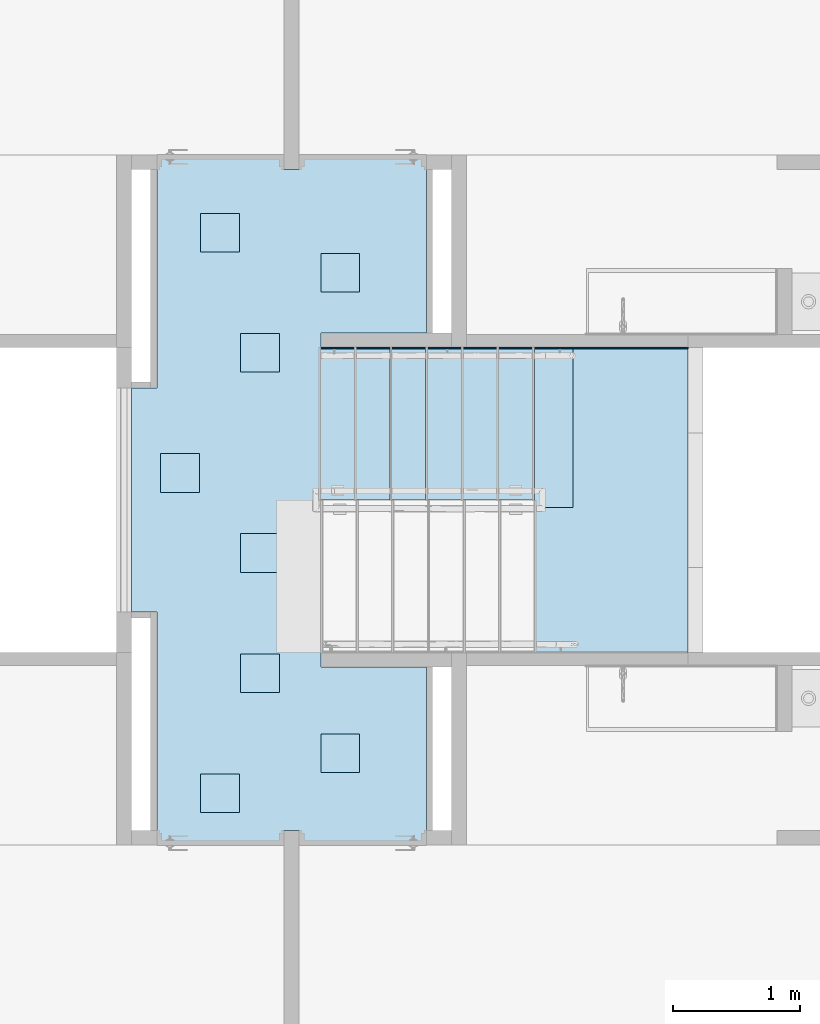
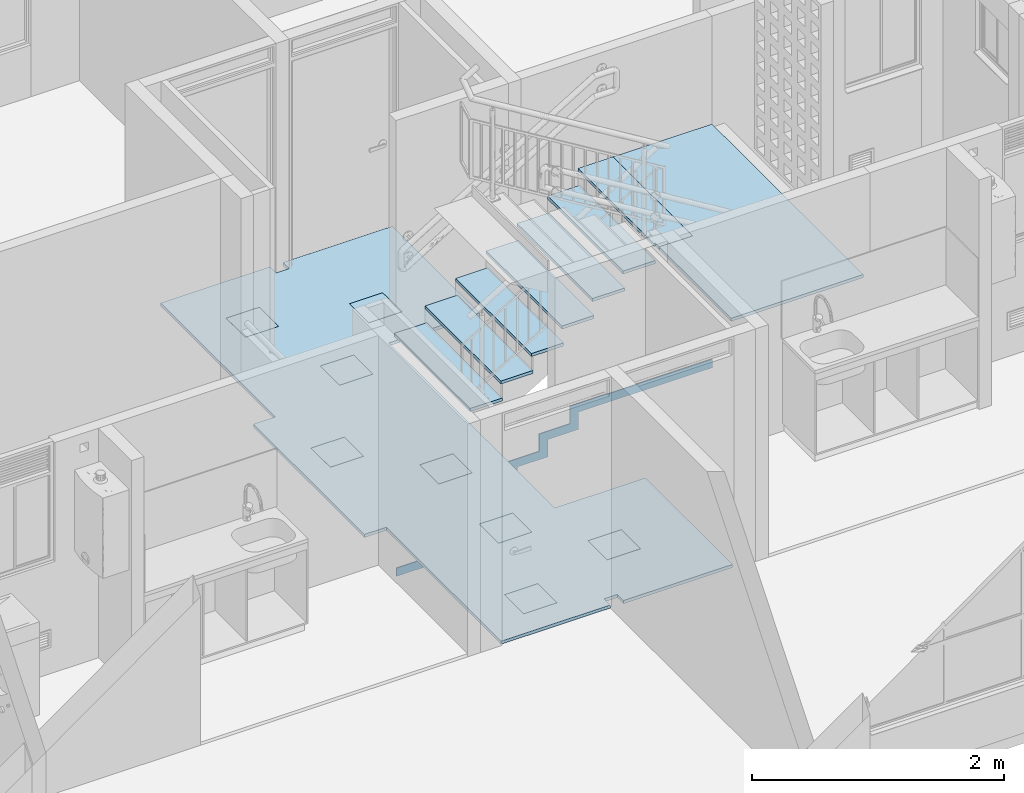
# One storey, part 2 of 48: 11 slabs.
"""IFC4 building model written with IfcOpenShell, lengths in metres."""

import ifcopenshell
import ifcopenshell.guid

model = None  # the IFC model being written
_history = None  # IfcOwnerHistory: only IFC2X3 demands one
_inside = {}  # id of a spatial element -> (the spatial element, [elements in it])
_under = {}  # id of a project, library or spatial element -> (it, [spatial elements below it])
_declared = {}  # id of a project -> (the project, [libraries it declares])
_typed = {}  # id of a type object -> (the type object, [elements of that type])
_made_of = {}  # id of a material, layer set ... -> (it, [elements and type objects made of it])


def new_model(schema):
    """Start an empty IFC model of exactly this schema.

    Asked for "IFC4X3", IfcOpenShell would pick the latest addendum, in which some entities
    have other attributes; the version numbers below select the first issue.
    IFC2X3 requires an IfcOwnerHistory on every rooted entity: one is made here for all.
    """
    global model, _history
    if schema == "IFC4X3":
        model = ifcopenshell.file(schema_version=(4, 3, 0, 0))
    else:
        model = ifcopenshell.file(schema=schema)
    _inside.clear()
    _under.clear()
    _declared.clear()
    _typed.clear()
    _made_of.clear()
    _history = None
    if model.schema == "IFC2X3":
        org = make("IfcOrganization", Name="unknown")
        user = make(
            "IfcPersonAndOrganization",
            ThePerson=make("IfcPerson", FamilyName="unknown"),
            TheOrganization=org,
        )
        app = make(
            "IfcApplication",
            ApplicationDeveloper=org,
            Version="unknown",
            ApplicationFullName="unknown",
            ApplicationIdentifier="unknown",
        )
        _history = make(
            "IfcOwnerHistory",
            OwningUser=user,
            OwningApplication=app,
            ChangeAction="ADDED",
            CreationDate=0,
        )
    return model


def make(cls, **values):
    """One entity of the class cls with the attributes given. An attribute that is None is left unset."""
    return model.create_entity(
        cls, **{name: value for name, value in values.items() if value is not None}
    )


def entity(cls, *values):
    """Any entity or typed value of the class cls, its attributes in the order of the schema. None: left unset."""
    e = model.create_entity(cls)
    for i, value in enumerate(values):
        if value is not None:
            e[i] = value
    return e


def rooted(cls, **values):
    """An entity with a GlobalId (a new one), such as an element, a storey or a relation."""
    return make(cls, GlobalId=ifcopenshell.guid.new(), OwnerHistory=_history, **values)


def si_unit(unit_type, name, prefix=None):
    """IfcSIUnit, for example si_unit("LENGTHUNIT", "METRE", prefix="MILLI")."""
    return make("IfcSIUnit", UnitType=unit_type, Prefix=prefix, Name=name)


def converted_unit(unit_type, name, factor, base, dimensions=None, offset=None):
    """IfcConversionBasedUnit, such as the inch: factor (a typed value) times the base unit."""
    return make(
        "IfcConversionBasedUnit"
        if offset is None
        else "IfcConversionBasedUnitWithOffset",
        ConversionOffset=offset,
        Dimensions=None
        if dimensions is None
        else entity("IfcDimensionalExponents", *dimensions),
        UnitType=unit_type,
        Name=name,
        ConversionFactor=make(
            "IfcMeasureWithUnit", ValueComponent=factor, UnitComponent=base
        ),
    )


def derived_unit(unit_type, elements):
    """IfcDerivedUnit: a product of units, each with its exponent."""
    return make(
        "IfcDerivedUnit",
        Elements=[
            make("IfcDerivedUnitElement", Unit=unit, Exponent=power)
            for unit, power in elements
        ],
        UnitType=unit_type,
    )


def assignment(units):
    """IfcUnitAssignment: the units of a project."""
    return None if units is None else make("IfcUnitAssignment", Units=units)


def point(xyz):
    """IfcCartesianPoint."""
    return None if xyz is None else make("IfcCartesianPoint", Coordinates=xyz)


def direction(xyz):
    """IfcDirection."""
    return None if xyz is None else make("IfcDirection", DirectionRatios=xyz)


def frame(location, z_axis=None, x_axis=None):
    """IfcAxis2Placement3D, a coordinate frame: its origin and axes. An axis left out is left unset."""
    return make(
        "IfcAxis2Placement3D",
        Location=point(location),
        Axis=direction(z_axis),
        RefDirection=direction(x_axis),
    )


def origin():
    """The frame at (0, 0, 0) with its axes left unset."""
    return frame((0.0, 0.0, 0.0))


def place(relative_to, where):
    """IfcLocalPlacement: puts the frame where relative to a parent placement (None: the world)."""
    return make(
        "IfcLocalPlacement", PlacementRelTo=relative_to, RelativePlacement=where
    )


def context(
    kind, dimensions, precision=None, world=None, true_north=None, identifier=None
):
    """IfcGeometricRepresentationContext, for example the 3D "Model" context."""
    return make(
        "IfcGeometricRepresentationContext",
        ContextIdentifier=identifier,
        ContextType=kind,
        CoordinateSpaceDimension=dimensions,
        Precision=precision,
        WorldCoordinateSystem=world,
        TrueNorth=true_north,
    )


def subcontext(parent, identifier, kind, view, scale=None):
    """IfcGeometricRepresentationSubContext, for example "Body" below "Model"."""
    return make(
        "IfcGeometricRepresentationSubContext",
        ContextIdentifier=identifier,
        ContextType=kind,
        ParentContext=parent,
        TargetScale=scale,
        TargetView=view,
    )


def project(units=None, contexts=None):
    """IfcProject with its units and contexts."""
    return rooted(
        "IfcProject",
        Name="project",
        RepresentationContexts=contexts,
        UnitsInContext=assignment(units),
    )


def spatial(cls, under=None, at=None, **own):
    """A site, building, storey or space (cls), placed at a placement, below another one or the project."""
    s = rooted(cls, ObjectPlacement=at, **own)
    if under is not None:
        _under.setdefault(under.id(), (under, []))[1].append(s)
    return s


def point_list(points):
    """IfcCartesianPointList2D or 3D."""
    cls = (
        "IfcCartesianPointList2D" if len(points[0]) == 2 else "IfcCartesianPointList3D"
    )
    return make(cls, CoordList=points)


def indexed_curve(points, segments=None, self_intersect=None):
    """IfcIndexedPolyCurve: lines and arcs through numbered points (the first is 1)."""
    return make(
        "IfcIndexedPolyCurve",
        Points=point_list(points),
        Segments=segments,
        SelfIntersect=self_intersect,
    )


def outline(outer, holes=None, kind="AREA"):
    """IfcArbitraryClosedProfileDef: a profile drawn as a closed curve; with holes, ...WithVoids."""
    if holes is None:
        return make("IfcArbitraryClosedProfileDef", ProfileType=kind, OuterCurve=outer)
    return make(
        "IfcArbitraryProfileDefWithVoids",
        ProfileType=kind,
        OuterCurve=outer,
        InnerCurves=holes,
    )


def extrude(swept, where, along, depth):
    """IfcExtrudedAreaSolid: the profile swept, set in the frame where, extruded along a direction by depth."""
    return make(
        "IfcExtrudedAreaSolid",
        SweptArea=swept,
        Position=where,
        ExtrudedDirection=direction(along),
        Depth=depth,
    )


def shape(context_of_items, identifier, shape_type, items):
    """IfcShapeRepresentation: the items that make up one representation, for example the "Body"."""
    return make(
        "IfcShapeRepresentation",
        ContextOfItems=context_of_items,
        RepresentationIdentifier=identifier,
        RepresentationType=shape_type,
        Items=items,
    )


def material(Name=None, Category=None):
    """IfcMaterial."""
    return make("IfcMaterial", Name=Name, Category=Category)


def constituent(of_material, Name=None, Category=None, fraction=None):
    """IfcMaterialConstituent: one of the materials an element consists of."""
    return make(
        "IfcMaterialConstituent",
        Name=Name,
        Material=of_material,
        Fraction=fraction,
        Category=Category,
    )


def constituent_set(constituents=None, Name=None):
    """IfcMaterialConstituentSet."""
    return make(
        "IfcMaterialConstituentSet", Name=Name, MaterialConstituents=constituents
    )


def made_of(thing, what):
    """Note that an element or type object is made of a material, layer set ...; save() writes the relation."""
    if what is not None:
        _made_of.setdefault(what.id(), (what, []))[1].append(thing)
    return thing


def type_object(cls, material=None, **own):
    """A type object (cls), such as IfcWallType, which elements share."""
    return made_of(rooted(cls, **own), material)


def element(
    cls,
    number,
    at=None,
    inside=None,
    cuts=None,
    type_object=None,
    material=None,
    context=None,
    identifier="Body",
    shape_type=None,
    held_by="IfcProductDefinitionShape",
    body=None,
    shapes=None,
    **own,
):
    """One element of the class cls, such as IfcWall. Its Tag is "e" and its number.

    at: its placement. inside: the storey or other place that contains it. cuts: it is an
    opening in that element (IfcRelVoidsElement). A single representation is given by context,
    identifier, shape_type and body (its items); several are given by shapes. held_by: the class
    of the entity that holds the representations. save() writes the other relations.
    """
    e = rooted(cls, Tag="e%d" % number, ObjectPlacement=at, **own)
    if body is not None:
        shapes = [shape(context, identifier, shape_type, body)]
    if shapes is not None:
        e.Representation = make(held_by, Representations=shapes)
    if inside is not None:
        _inside.setdefault(inside.id(), (inside, []))[1].append(e)
    if cuts is not None:
        rooted(
            "IfcRelVoidsElement", RelatingBuildingElement=cuts, RelatedOpeningElement=e
        )
    if type_object is not None:
        _typed.setdefault(type_object.id(), (type_object, []))[1].append(e)
    return made_of(e, material)


def aggregate(whole, parts):
    """IfcRelAggregates: a whole, such as a stair, and the parts it consists of."""
    return rooted("IfcRelAggregates", RelatingObject=whole, RelatedObjects=parts)


def save(model, path):
    """Write the relations noted so far, then the file.

    IfcRelAggregates (storeys below a building ...), IfcRelContainedInSpatialStructure (elements
    in a storey), IfcRelDefinesByType, IfcRelAssociatesMaterial and IfcRelDeclares: one each for
    every whole, place, type object, material and project.
    """
    for whole, parts in _under.values():
        aggregate(whole, parts)
    for where, things in _inside.values():
        rooted(
            "IfcRelContainedInSpatialStructure",
            RelatedElements=things,
            RelatingStructure=where,
        )
    for kind, things in _typed.values():
        rooted("IfcRelDefinesByType", RelatedObjects=things, RelatingType=kind)
    for what, things in _made_of.values():
        rooted("IfcRelAssociatesMaterial", RelatedObjects=things, RelatingMaterial=what)
    for by, libraries in _declared.values():
        rooted("IfcRelDeclares", RelatingContext=by, RelatedDefinitions=libraries)
    model.write(path)


model = new_model("IFC4")

# Units and contexts
model_context = context("Model", 3, precision=1e-05, world=origin(), true_north=direction((6.123031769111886e-17, 1.0)))
body_context = subcontext(model_context, "Body", "Model", "MODEL_VIEW")
ifc_project = project(units=[si_unit("LENGTHUNIT", "METRE"), si_unit("AREAUNIT", "SQUARE_METRE"), si_unit("VOLUMEUNIT", "CUBIC_METRE"), converted_unit("PLANEANGLEUNIT", "DEGREE", entity("IfcRatioMeasure", 0.017453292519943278), si_unit("PLANEANGLEUNIT", "RADIAN"), dimensions=[0, 0, 0, 0, 0, 0, 0]), si_unit("MASSUNIT", "GRAM", prefix="KILO"), derived_unit("MASSDENSITYUNIT", [(si_unit("MASSUNIT", "GRAM", prefix="KILO"), 1), (si_unit("LENGTHUNIT", "METRE"), -3)]), derived_unit("IONCONCENTRATIONUNIT", [(si_unit("MASSUNIT", "GRAM", prefix="KILO"), 1), (si_unit("LENGTHUNIT", "METRE"), -3)]), derived_unit("MOMENTOFINERTIAUNIT", [(si_unit("LENGTHUNIT", "METRE"), 4)]), si_unit("TIMEUNIT", "SECOND"), si_unit("FREQUENCYUNIT", "HERTZ"), si_unit("THERMODYNAMICTEMPERATUREUNIT", "DEGREE_CELSIUS"), derived_unit("THERMALTRANSMITTANCEUNIT", [(si_unit("MASSUNIT", "GRAM", prefix="KILO"), 1), (si_unit("THERMODYNAMICTEMPERATUREUNIT", "KELVIN"), -1), (si_unit("TIMEUNIT", "SECOND"), -3)]), derived_unit("THERMALCONDUCTANCEUNIT", [(si_unit("MASSUNIT", "GRAM", prefix="KILO"), 1), (si_unit("THERMODYNAMICTEMPERATUREUNIT", "KELVIN"), -1), (si_unit("TIMEUNIT", "SECOND"), -3), (si_unit("LENGTHUNIT", "METRE"), 1)]), derived_unit("VOLUMETRICFLOWRATEUNIT", [(si_unit("LENGTHUNIT", "METRE"), 3), (si_unit("TIMEUNIT", "SECOND"), -1)]), derived_unit("MASSFLOWRATEUNIT", [(si_unit("MASSUNIT", "GRAM", prefix="KILO"), 1), (si_unit("TIMEUNIT", "SECOND"), -1)]), derived_unit("ROTATIONALFREQUENCYUNIT", [(si_unit("TIMEUNIT", "SECOND"), -1)]), si_unit("ELECTRICCURRENTUNIT", "AMPERE"), si_unit("ELECTRICVOLTAGEUNIT", "VOLT"), si_unit("POWERUNIT", "WATT"), si_unit("FORCEUNIT", "NEWTON", prefix="KILO"), si_unit("ILLUMINANCEUNIT", "LUX"), si_unit("LUMINOUSFLUXUNIT", "LUMEN"), si_unit("LUMINOUSINTENSITYUNIT", "CANDELA"), derived_unit("USERDEFINED", [(si_unit("MASSUNIT", "GRAM", prefix="KILO"), -1), (si_unit("LENGTHUNIT", "METRE"), -2), (si_unit("TIMEUNIT", "SECOND"), 3), (si_unit("LUMINOUSFLUXUNIT", "LUMEN"), 1)]), derived_unit("USERDEFINED", [(si_unit("MASSUNIT", "GRAM", prefix="KILO"), 1), (si_unit("TIMEUNIT", "SECOND"), -3), (si_unit("LENGTHUNIT", "METRE"), 3), (si_unit("ELECTRICCURRENTUNIT", "AMPERE"), -2)]), derived_unit("SOUNDPOWERUNIT", [(si_unit("MASSUNIT", "GRAM", prefix="KILO"), 1), (si_unit("TIMEUNIT", "SECOND"), -3), (si_unit("LENGTHUNIT", "METRE"), 2)]), derived_unit("SOUNDPRESSUREUNIT", [(si_unit("MASSUNIT", "GRAM", prefix="KILO"), 1), (si_unit("LENGTHUNIT", "METRE"), -1), (si_unit("TIMEUNIT", "SECOND"), -2)]), derived_unit("LINEARVELOCITYUNIT", [(si_unit("LENGTHUNIT", "METRE"), 1), (si_unit("TIMEUNIT", "SECOND"), -1)]), si_unit("PRESSUREUNIT", "PASCAL"), derived_unit("USERDEFINED", [(si_unit("MASSUNIT", "GRAM", prefix="KILO"), 1), (si_unit("LENGTHUNIT", "METRE"), -2), (si_unit("TIMEUNIT", "SECOND"), -2)]), derived_unit("LINEARFORCEUNIT", [(si_unit("MASSUNIT", "GRAM", prefix="KILO"), 1), (si_unit("TIMEUNIT", "SECOND"), -2)]), derived_unit("PLANARFORCEUNIT", [(si_unit("MASSUNIT", "GRAM", prefix="KILO"), 1), (si_unit("LENGTHUNIT", "METRE"), -1), (si_unit("TIMEUNIT", "SECOND"), -2)]), derived_unit("SPECIFICHEATCAPACITYUNIT", [(si_unit("THERMODYNAMICTEMPERATUREUNIT", "KELVIN"), -1), (si_unit("LENGTHUNIT", "METRE"), 2), (si_unit("TIMEUNIT", "SECOND"), -2)]), derived_unit("HEATINGVALUEUNIT", [(si_unit("LENGTHUNIT", "METRE"), 2), (si_unit("TIMEUNIT", "SECOND"), -2)]), derived_unit("VAPORPERMEABILITYUNIT", [(si_unit("LENGTHUNIT", "METRE"), -1), (si_unit("TIMEUNIT", "SECOND"), 1)]), derived_unit("DYNAMICVISCOSITYUNIT", [(si_unit("MASSUNIT", "GRAM", prefix="KILO"), 1), (si_unit("TIMEUNIT", "SECOND"), -1), (si_unit("LENGTHUNIT", "METRE"), -1)]), derived_unit("THERMALEXPANSIONCOEFFICIENTUNIT", [(si_unit("THERMODYNAMICTEMPERATUREUNIT", "KELVIN"), -1)]), derived_unit("MODULUSOFELASTICITYUNIT", [(si_unit("MASSUNIT", "GRAM", prefix="KILO"), 1), (si_unit("LENGTHUNIT", "METRE"), -1), (si_unit("TIMEUNIT", "SECOND"), -2)]), derived_unit("ISOTHERMALMOISTURECAPACITYUNIT", [(si_unit("LENGTHUNIT", "METRE"), 3), (si_unit("MASSUNIT", "GRAM", prefix="KILO"), -1)]), derived_unit("MOISTUREDIFFUSIVITYUNIT", [(si_unit("TIMEUNIT", "SECOND"), -1), (si_unit("LENGTHUNIT", "METRE"), 2)])], contexts=[model_context])

# Site, building, storey
site_placement = place(None, origin())
site = spatial("IfcSite", under=ifc_project, at=site_placement, Name="Default", CompositionType="ELEMENT")
building_placement = place(site_placement, origin())
building = spatial("IfcBuilding", under=site, at=building_placement, CompositionType="ELEMENT")
storey_placement = place(building_placement, frame((0.0, 0.0, 4.700000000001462)))
storey = spatial("IfcBuildingStorey", under=building, at=storey_placement, Name="Nivel 3", CompositionType="ELEMENT", Elevation=4.700000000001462)

# Slabs
ifc_material_1 = material(Name="PISO GRES SAHARA 30X30", Category="Materials")
ifc_constituent_1 = constituent(ifc_material_1, Name="PISO GRES SAHARA 30X30", Category="Materials")
ifc_material_2 = material(Name="Mortero de pega", Category="Materials")
ifc_constituent_2 = constituent(ifc_material_2, Name="Mortero de pega", Category="Materials")
ifc_constituent_set_1 = constituent_set(constituents=[ifc_constituent_1, ifc_constituent_2], Name="Floor:C2030.20 - 30x30- Piso en gres - Gres")
slab_type_1 = type_object("IfcSlabType", Name="Floor:C2030.20 - 30x30- Piso en gres - Gres", PredefinedType="FLOOR", material=ifc_constituent_set_1)
slab_1_placement = place(storey_placement, origin())
element("IfcSlab", 1, at=slab_1_placement, inside=storey, type_object=slab_type_1, material=ifc_constituent_set_1, Name="Floor:C2030.20 - 30x30- Piso en gres - Gres", ObjectType="Floor:C2030.20 - 30x30- Piso en gres - Gres", PredefinedType="FLOOR", context=body_context, shape_type="SweptSolid", body=[
    extrude(outline(indexed_curve([(0.9570000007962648, -0.8799999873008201), (1.15699999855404, -0.8799999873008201), (1.15699999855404, 0.8800000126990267), (0.9570000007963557, 0.8800000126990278), (0.9570000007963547, 2.6969999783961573), (-0.04299999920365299, 2.6969999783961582), (-0.04299999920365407, 2.5999999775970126), (-0.16299999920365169, 2.5999999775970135), (-0.16299999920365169, 2.6969999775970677), (-1.16299999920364, 2.6969999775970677), (-1.162999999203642, 1.3150000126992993), (-0.33300000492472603, 1.3150000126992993), (-0.33300000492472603, -1.3149999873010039), (-1.1629999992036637, -1.3149999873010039), (-1.1629999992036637, -2.697000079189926), (-0.16299999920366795, -2.697000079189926), (-0.16299999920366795, -2.599999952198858), (-0.04299999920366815, -2.599999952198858), (-0.04299999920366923, -2.6969999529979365), (0.9570000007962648, -2.6969999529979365), (0.9570000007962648, -0.8799999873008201)], self_intersect=False), holes=[indexed_curve([(0.3069999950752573, 2.1550000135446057), (0.30699999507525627, 2.4600000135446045), (0.6119999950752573, 2.4600000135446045), (0.6119999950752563, 2.1550000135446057), (0.3069999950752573, 2.1550000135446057)], self_intersect=False), indexed_curve([(-0.3330000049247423, 2.14500001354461), (-0.33300000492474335, 1.840000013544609), (-0.6380000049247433, 1.840000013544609), (-0.6380000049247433, 2.14500001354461), (-0.3330000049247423, 2.14500001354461)], self_intersect=False), indexed_curve([(0.29699999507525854, 1.515000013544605), (0.29699999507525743, 1.2100000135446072), (-0.008000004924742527, 1.2100000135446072), (-0.00800000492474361, 1.515000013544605), (0.29699999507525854, 1.515000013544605)], self_intersect=False), indexed_curve([(0.6219999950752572, -0.36499998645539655), (0.6219999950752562, -0.059999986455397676), (0.9269999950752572, -0.059999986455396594), (0.9269999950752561, -0.36499998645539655), (0.6219999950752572, -0.36499998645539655)], self_intersect=False), indexed_curve([(-0.00800000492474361, 0.2650000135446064), (-0.00800000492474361, 0.5700000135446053), (0.29699999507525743, 0.5700000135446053), (0.29699999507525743, 0.2650000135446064), (-0.00800000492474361, 0.2650000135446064)], self_intersect=False), indexed_curve([(-0.00800000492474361, -1.309999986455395), (-0.00800000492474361, -1.004999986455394), (0.29699999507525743, -1.004999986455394), (0.29699999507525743, -1.309999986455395), (-0.00800000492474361, -1.309999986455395)], self_intersect=False), indexed_curve([(-0.3330000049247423, -1.63499998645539), (-0.33300000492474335, -1.9399999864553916), (-0.6380000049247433, -1.9399999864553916), (-0.6380000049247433, -1.63499998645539), (-0.3330000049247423, -1.63499998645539)], self_intersect=False), indexed_curve([(0.3069999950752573, -2.2549999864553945), (0.30699999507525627, -1.9499999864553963), (0.6119999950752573, -1.9499999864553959), (0.6119999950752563, -2.2549999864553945), (0.3069999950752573, -2.2549999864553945)], self_intersect=False)]), frame((9.21950000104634, -6.425000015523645, 0.019999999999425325), z_axis=(0.0, 0.0, 1.0), x_axis=(-1.0, 0.0, 0.0)), (0.0, 0.0, 1.0), 0.009999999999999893),
    extrude(outline(indexed_curve([(0.9570000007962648, -0.8799999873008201), (1.15699999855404, -0.8799999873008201), (1.15699999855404, 0.8800000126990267), (0.9570000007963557, 0.8800000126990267), (0.9570000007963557, 2.6969999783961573), (-0.04299999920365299, 2.6969999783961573), (-0.04299999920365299, 2.5999999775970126), (-0.16299999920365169, 2.5999999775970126), (-0.16299999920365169, 2.6969999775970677), (-1.16299999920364, 2.6969999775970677), (-1.16299999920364, 1.3150000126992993), (-0.33300000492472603, 1.3150000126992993), (-0.33300000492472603, -1.3149999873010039), (-1.1629999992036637, -1.3149999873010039), (-1.1629999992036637, -2.697000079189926), (-0.16299999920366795, -2.697000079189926), (-0.16299999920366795, -2.599999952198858), (-0.04299999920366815, -2.599999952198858), (-0.04299999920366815, -2.6969999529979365), (0.9570000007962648, -2.6969999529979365), (0.9570000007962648, -0.8799999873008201)], self_intersect=False), holes=[indexed_curve([(0.3069999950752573, -2.2549999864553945), (0.3069999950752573, -1.9499999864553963), (0.6119999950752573, -1.9499999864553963), (0.6119999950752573, -2.2549999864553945), (0.3069999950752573, -2.2549999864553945)], self_intersect=False), indexed_curve([(-0.3330000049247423, -1.63499998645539), (-0.3330000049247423, -1.9399999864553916), (-0.6380000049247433, -1.9399999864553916), (-0.6380000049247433, -1.63499998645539), (-0.3330000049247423, -1.63499998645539)], self_intersect=False), indexed_curve([(-0.008000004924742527, -1.309999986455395), (-0.008000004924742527, -1.004999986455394), (0.29699999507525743, -1.004999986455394), (0.29699999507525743, -1.309999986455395), (-0.008000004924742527, -1.309999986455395)], self_intersect=False), indexed_curve([(-0.008000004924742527, 0.2650000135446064), (-0.008000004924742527, 0.5700000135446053), (0.29699999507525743, 0.5700000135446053), (0.29699999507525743, 0.2650000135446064), (-0.008000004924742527, 0.2650000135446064)], self_intersect=False), indexed_curve([(0.6219999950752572, -0.36499998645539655), (0.6219999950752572, -0.059999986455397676), (0.9269999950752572, -0.059999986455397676), (0.9269999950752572, -0.36499998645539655), (0.6219999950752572, -0.36499998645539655)], self_intersect=False), indexed_curve([(0.29699999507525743, 1.515000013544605), (0.29699999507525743, 1.2100000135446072), (-0.008000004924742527, 1.2100000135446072), (-0.008000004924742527, 1.515000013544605), (0.29699999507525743, 1.515000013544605)], self_intersect=False), indexed_curve([(-0.3330000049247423, 2.14500001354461), (-0.3330000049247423, 1.840000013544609), (-0.6380000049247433, 1.840000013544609), (-0.6380000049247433, 2.14500001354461), (-0.3330000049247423, 2.14500001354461)], self_intersect=False), indexed_curve([(0.3069999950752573, 2.1550000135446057), (0.3069999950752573, 2.4600000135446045), (0.6119999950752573, 2.4600000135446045), (0.6119999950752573, 2.1550000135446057), (0.3069999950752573, 2.1550000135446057)], self_intersect=False)]), frame((9.21950000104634, -6.425000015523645, 0.0), z_axis=(0.0, 0.0, 1.0), x_axis=(-1.0, 0.0, 0.0)), (0.0, 0.0, 1.0), 0.020000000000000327),
])
ifc_material_3 = material(Name="escalgres", Category="Materials")
ifc_constituent_3 = constituent(ifc_material_3, Name="escalgres", Category="Materials")
ifc_constituent_4 = constituent(ifc_material_2, Name="Mortero de pega", Category="Materials")
ifc_constituent_set_2 = constituent_set(constituents=[ifc_constituent_3, ifc_constituent_4], Name="Floor:C2030.20 -30x30- Escalgres - Gres")
slab_type_2 = type_object("IfcSlabType", Name="Floor:C2030.20 -30x30- Escalgres - Gres", PredefinedType="FLOOR", material=ifc_constituent_set_2)
slab_2_placement = place(storey_placement, origin())
element("IfcSlab", 2, at=slab_2_placement, inside=storey, type_object=slab_type_2, material=ifc_constituent_set_2, Name="Floor:C2030.20 -30x30- Escalgres - Gres", ObjectType="Floor:C2030.20 -30x30- Escalgres - Gres", PredefinedType="FLOOR", context=body_context, shape_type="SweptSolid", body=[
    extrude(outline(indexed_curve([(-0.14749999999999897, -0.6000000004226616), (0.14750000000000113, -0.6000000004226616), (0.14750000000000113, 0.6000000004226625), (-0.14749999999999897, 0.6000000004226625), (-0.14749999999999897, -0.6000000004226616)], self_intersect=False)), frame((9.685000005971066, -5.825000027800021, 0.1878571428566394), z_axis=(0.0, 0.0, 1.0), x_axis=(-1.0, 0.0, 0.0)), (0.0, 0.0, 1.0), 0.009999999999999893),
    extrude(outline(indexed_curve([(-0.14749999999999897, -0.6000000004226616), (0.14750000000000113, -0.6000000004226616), (0.14750000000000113, 0.6000000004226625), (-0.14749999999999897, 0.6000000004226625), (-0.14749999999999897, -0.6000000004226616)], self_intersect=False)), frame((9.685000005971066, -5.825000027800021, 0.16785714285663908), z_axis=(0.0, 0.0, 1.0), x_axis=(-1.0, 0.0, 0.0)), (0.0, 0.0, 1.0), 0.020000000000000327),
])
slab_3_placement = place(storey_placement, origin())
element("IfcSlab", 3, at=slab_3_placement, inside=storey, type_object=slab_type_2, material=ifc_constituent_set_2, Name="Floor:C2030.20 -30x30- Escalgres - Gres", ObjectType="Floor:C2030.20 -30x30- Escalgres - Gres", PredefinedType="FLOOR", context=body_context, shape_type="SweptSolid", body=[
    extrude(outline(indexed_curve([(-0.14749999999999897, -0.6000000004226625), (0.14750000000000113, -0.6000000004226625), (0.14750000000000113, 0.6000000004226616), (-0.14749999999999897, 0.6000000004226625), (-0.14749999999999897, -0.6000000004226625)], self_intersect=False)), frame((9.965000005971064, -5.825000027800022, 0.35571428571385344), z_axis=(0.0, 0.0, 1.0), x_axis=(-1.0, 0.0, 0.0)), (0.0, 0.0, 1.0), 0.009999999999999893),
    extrude(outline(indexed_curve([(-0.14749999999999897, -0.6000000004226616), (0.14750000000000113, -0.6000000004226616), (0.14750000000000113, 0.6000000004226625), (-0.14749999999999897, 0.6000000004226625), (-0.14749999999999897, -0.6000000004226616)], self_intersect=False)), frame((9.965000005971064, -5.825000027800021, 0.3357142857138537), z_axis=(0.0, 0.0, 1.0), x_axis=(-1.0, 0.0, 0.0)), (0.0, 0.0, 1.0), 0.019999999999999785),
])
slab_4_placement = place(storey_placement, origin())
element("IfcSlab", 4, at=slab_4_placement, inside=storey, type_object=slab_type_2, material=ifc_constituent_set_2, Name="Floor:C2030.20 -30x30- Escalgres - Gres", ObjectType="Floor:C2030.20 -30x30- Escalgres - Gres", PredefinedType="FLOOR", context=body_context, shape_type="SweptSolid", body=[
    extrude(outline(indexed_curve([(-0.14749999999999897, -0.6000000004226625), (0.1474999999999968, -0.6000000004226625), (0.1474999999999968, 0.6000000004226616), (-0.14749999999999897, 0.6000000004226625), (-0.14749999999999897, -0.6000000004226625)], self_intersect=False)), frame((10.245000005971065, -5.825000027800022, 0.5235714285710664), z_axis=(0.0, 0.0, 1.0), x_axis=(-1.0, 0.0, 0.0)), (0.0, 0.0, 1.0), 0.009999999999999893),
    extrude(outline(indexed_curve([(-0.14749999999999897, -0.6000000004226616), (0.1474999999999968, -0.6000000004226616), (0.1474999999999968, 0.6000000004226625), (-0.14749999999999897, 0.6000000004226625), (-0.14749999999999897, -0.6000000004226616)], self_intersect=False)), frame((10.245000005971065, -5.825000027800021, 0.5035714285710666), z_axis=(0.0, 0.0, 1.0), x_axis=(-1.0, 0.0, 0.0)), (0.0, 0.0, 1.0), 0.019999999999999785),
])
slab_5_placement = place(storey_placement, origin())
element("IfcSlab", 5, at=slab_5_placement, inside=storey, type_object=slab_type_2, material=ifc_constituent_set_2, Name="Floor:C2030.20 -30x30- Escalgres - Gres", ObjectType="Floor:C2030.20 -30x30- Escalgres - Gres", PredefinedType="FLOOR", context=body_context, shape_type="SweptSolid", body=[
    extrude(outline(indexed_curve([(-0.14750000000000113, -0.6000000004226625), (0.14750000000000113, -0.6000000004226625), (0.14750000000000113, 0.6000000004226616), (-0.14750000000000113, 0.6000000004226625), (-0.14750000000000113, -0.6000000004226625)], self_intersect=False)), frame((10.525000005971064, -5.825000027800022, 0.6914285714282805), z_axis=(0.0, 0.0, 1.0), x_axis=(-1.0, 0.0, 0.0)), (0.0, 0.0, 1.0), 0.009999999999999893),
    extrude(outline(indexed_curve([(-0.14750000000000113, -0.6000000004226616), (0.14750000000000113, -0.6000000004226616), (0.14750000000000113, 0.6000000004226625), (-0.14750000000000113, 0.6000000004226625), (-0.14750000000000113, -0.6000000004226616)], self_intersect=False)), frame((10.525000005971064, -5.825000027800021, 0.6714285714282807), z_axis=(0.0, 0.0, 1.0), x_axis=(-1.0, 0.0, 0.0)), (0.0, 0.0, 1.0), 0.019999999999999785),
])
slab_6_placement = place(storey_placement, origin())
element("IfcSlab", 6, at=slab_6_placement, inside=storey, type_object=slab_type_2, material=ifc_constituent_set_2, Name="Floor:C2030.20 -30x30- Escalgres - Gres", ObjectType="Floor:C2030.20 -30x30- Escalgres - Gres", PredefinedType="FLOOR", context=body_context, shape_type="SweptSolid", body=[
    extrude(outline(indexed_curve([(-0.14749999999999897, -0.6000000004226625), (0.14750000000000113, -0.6000000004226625), (0.14750000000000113, 0.6000000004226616), (-0.14749999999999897, 0.6000000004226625), (-0.14749999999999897, -0.6000000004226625)], self_intersect=False)), frame((10.805000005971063, -5.825000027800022, 0.8592857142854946), z_axis=(0.0, 0.0, 1.0), x_axis=(-1.0, 0.0, 0.0)), (0.0, 0.0, 1.0), 0.009999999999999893),
    extrude(outline(indexed_curve([(-0.14749999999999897, -0.6000000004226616), (0.14750000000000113, -0.6000000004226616), (0.14750000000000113, 0.6000000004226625), (-0.14749999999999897, 0.6000000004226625), (-0.14749999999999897, -0.6000000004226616)], self_intersect=False)), frame((10.805000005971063, -5.825000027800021, 0.8392857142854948), z_axis=(0.0, 0.0, 1.0), x_axis=(-1.0, 0.0, 0.0)), (0.0, 0.0, 1.0), 0.019999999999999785),
])
slab_7_placement = place(storey_placement, origin())
element("IfcSlab", 7, at=slab_7_placement, inside=storey, type_object=slab_type_2, material=ifc_constituent_set_2, Name="Floor:C2030.20 -30x30- Escalgres - Gres", ObjectType="Floor:C2030.20 -30x30- Escalgres - Gres", PredefinedType="FLOOR", context=body_context, shape_type="SweptSolid", body=[
    extrude(outline(indexed_curve([(-0.14749999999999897, -0.6000000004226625), (0.14749999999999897, -0.6000000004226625), (0.14749999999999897, 0.6000000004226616), (-0.14749999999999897, 0.6000000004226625), (-0.14749999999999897, -0.6000000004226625)], self_intersect=False)), frame((11.085000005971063, -5.825000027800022, 1.0271428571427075), z_axis=(0.0, 0.0, 1.0), x_axis=(-1.0, 0.0, 0.0)), (0.0, 0.0, 1.0), 0.009999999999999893),
    extrude(outline(indexed_curve([(-0.14749999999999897, -0.6000000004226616), (0.14749999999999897, -0.6000000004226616), (0.14749999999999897, 0.6000000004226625), (-0.14749999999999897, 0.6000000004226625), (-0.14749999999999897, -0.6000000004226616)], self_intersect=False)), frame((11.085000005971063, -5.825000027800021, 1.0071428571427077), z_axis=(0.0, 0.0, 1.0), x_axis=(-1.0, 0.0, 0.0)), (0.0, 0.0, 1.0), 0.019999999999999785),
])
slab_8_placement = place(storey_placement, origin())
element("IfcSlab", 8, at=slab_8_placement, inside=storey, type_object=slab_type_2, material=ifc_constituent_set_2, Name="Floor:C2030.20 -30x30- Escalgres - Gres", ObjectType="Floor:C2030.20 -30x30- Escalgres - Gres", PredefinedType="FLOOR", context=body_context, shape_type="SweptSolid", body=[
    extrude(outline(indexed_curve([(-0.5050000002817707, -1.1798333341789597), (0.7050000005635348, -1.1798333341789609), (0.7050000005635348, 1.220166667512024), (-0.20000000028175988, 1.220166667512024), (-0.20000000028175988, -0.040333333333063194), (-0.5050000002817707, -0.040333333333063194), (-0.5050000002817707, -1.1798333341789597)], self_intersect=False)), frame((11.737500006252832, -6.445166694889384, 1.1950000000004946)), (0.0, 0.0, 1.0), 0.009999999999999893),
    extrude(outline(indexed_curve([(-0.5050000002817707, -1.1798333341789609), (0.7050000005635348, -1.1798333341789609), (0.7050000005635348, 1.220166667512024), (-0.20000000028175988, 1.220166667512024), (-0.20000000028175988, -0.040333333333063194), (-0.5050000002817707, -0.040333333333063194), (-0.5050000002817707, -1.1798333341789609)], self_intersect=False)), frame((11.737500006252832, -6.445166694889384, 1.1750000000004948)), (0.0, 0.0, 1.0), 0.019999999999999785),
])
slab_9_placement = place(storey_placement, origin())
element("IfcSlab", 9, at=slab_9_placement, inside=storey, type_object=slab_type_2, material=ifc_constituent_set_2, Name="Floor:C2030.20 -30x30- Escalgres - Gres", ObjectType="Floor:C2030.20 -30x30- Escalgres - Gres", PredefinedType="FLOOR", context=body_context, shape_type="SweptSolid", body=[
    extrude(outline(indexed_curve([(-0.09666666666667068, -0.44033333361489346), (0.20833333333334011, -0.44033333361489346), (0.20833333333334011, 0.8201666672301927), (-0.11166666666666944, 0.8201666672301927), (-0.11166666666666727, -0.37983333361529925), (-0.09666666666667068, -0.37983333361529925), (-0.09666666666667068, -0.44033333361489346)], self_intersect=False)), frame((11.329166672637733, -6.045166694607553, 1.1949999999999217)), (0.0, 0.0, 1.0), 0.009999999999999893),
    extrude(outline(indexed_curve([(-0.09666666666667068, -0.44033333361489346), (0.20833333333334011, -0.44033333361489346), (0.20833333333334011, 0.8201666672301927), (-0.11166666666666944, 0.8201666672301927), (-0.11166666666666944, -0.37983333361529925), (-0.09666666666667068, -0.37983333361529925), (-0.09666666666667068, -0.44033333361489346)], self_intersect=False)), frame((11.329166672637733, -6.045166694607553, 1.1749999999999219)), (0.0, 0.0, 1.0), 0.019999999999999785),
])
ifc_material_4 = material(Name="PISO GRES moca 30X30", Category="Materials")
ifc_constituent_5 = constituent(ifc_material_4, Name="PISO GRES moca 30X30", Category="Materials")
ifc_constituent_6 = constituent(ifc_material_2, Name="Mortero de pega", Category="Materials")
ifc_constituent_set_3 = constituent_set(constituents=[ifc_constituent_5, ifc_constituent_6], Name="Floor:C2030.20 - Piso en gres - Gres moca")
slab_type_3 = type_object("IfcSlabType", Name="Floor:C2030.20 - Piso en gres - Gres moca", PredefinedType="FLOOR", material=ifc_constituent_set_3)
slab_10_placement = place(storey_placement, origin())
element("IfcSlab", 10, at=slab_10_placement, inside=storey, type_object=slab_type_3, material=ifc_constituent_set_3, Name="Floor:C2030.20 - Piso en gres - Gres moca", ObjectType="Floor:C2030.20 - Piso en gres - Gres moca", PredefinedType="FLOOR", context=body_context, shape_type="SweptSolid", body=[
    extrude(outline(indexed_curve([(-0.15249999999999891, -0.1525), (0.15249999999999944, -0.1525), (0.1525, 0.15249999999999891), (-0.15249999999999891, 0.1525), (-0.15249999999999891, -0.1525)], self_intersect=False)), frame((8.760000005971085, -4.32250002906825, 0.019999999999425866), z_axis=(0.0, 0.0, 1.0), x_axis=(0.0, -1.0, 0.0)), (0.0, 0.0, 1.0), 0.009999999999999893),
    extrude(outline(indexed_curve([(-0.15250000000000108, -0.15250000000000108), (0.1525, -0.15250000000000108), (0.1525, 0.15250000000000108), (-0.15250000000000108, 0.15250000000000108), (-0.15250000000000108, -0.15250000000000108)], self_intersect=False)), frame((9.705000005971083, -4.637500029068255, 0.019999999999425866)), (0.0, 0.0, 1.0), 0.009999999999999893),
    extrude(outline(indexed_curve([(-0.15249999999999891, -0.15250000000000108), (0.15250000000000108, -0.15250000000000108), (0.15250000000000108, 0.1525), (-0.15249999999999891, 0.1525), (-0.15249999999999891, -0.15250000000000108)], self_intersect=False)), frame((9.075000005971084, -5.267500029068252, 0.019999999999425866), z_axis=(0.0, 0.0, 1.0), x_axis=(-1.0, 0.0, 0.0)), (0.0, 0.0, 1.0), 0.009999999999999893),
    extrude(outline(indexed_curve([(-0.1525, -0.15250000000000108), (0.15249999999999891, -0.1525), (0.1525, 0.15249999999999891), (-0.1525, 0.1525), (-0.1525, -0.15250000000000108)], self_intersect=False)), frame((8.445000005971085, -6.212500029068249, 0.019999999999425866), z_axis=(0.0, 0.0, 1.0), x_axis=(0.0, -1.0, 0.0)), (0.0, 0.0, 1.0), 0.009999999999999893),
    extrude(outline(indexed_curve([(-0.1525, -0.1525), (0.15249999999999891, -0.1525), (0.15249999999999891, 0.15250000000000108), (-0.1525, 0.15250000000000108), (-0.1525, -0.1525)], self_intersect=False)), frame((9.075000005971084, -6.842500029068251, 0.019999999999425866), z_axis=(0.0, 0.0, 1.0), x_axis=(0.0, 1.0, 0.0)), (0.0, 0.0, 1.0), 0.009999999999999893),
    extrude(outline(indexed_curve([(-0.1525, -0.1525), (0.15249999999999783, -0.1525), (0.15249999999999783, 0.15250000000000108), (-0.1525, 0.15250000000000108), (-0.1525, -0.1525)], self_intersect=False)), frame((9.075000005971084, -7.787500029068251, 0.019999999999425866), z_axis=(0.0, 0.0, 1.0), x_axis=(0.0, 1.0, 0.0)), (0.0, 0.0, 1.0), 0.009999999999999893),
    extrude(outline(indexed_curve([(-0.1525, -0.15250000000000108), (0.15250000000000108, -0.15250000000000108), (0.1525, 0.1525), (-0.1525, 0.15250000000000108), (-0.1525, -0.15250000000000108)], self_intersect=False)), frame((9.705000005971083, -8.417500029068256, 0.019999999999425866), z_axis=(0.0, 0.0, 1.0), x_axis=(-1.0, 0.0, 0.0)), (0.0, 0.0, 1.0), 0.009999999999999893),
    extrude(outline(indexed_curve([(-0.15249999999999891, -0.1525), (0.1525, -0.1525), (0.1525, 0.15249999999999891), (-0.15249999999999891, 0.1525), (-0.15249999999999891, -0.1525)], self_intersect=False)), frame((8.760000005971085, -8.73250002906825, 0.019999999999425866), z_axis=(0.0, 0.0, 1.0), x_axis=(0.0, -1.0, 0.0)), (0.0, 0.0, 1.0), 0.009999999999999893),
    extrude(outline(indexed_curve([(-0.15249999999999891, -0.1525), (0.15249999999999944, -0.1525), (0.15249999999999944, 0.1525), (-0.15249999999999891, 0.1525), (-0.15249999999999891, -0.1525)], self_intersect=False)), frame((8.760000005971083, -4.32250002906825, 0.0), z_axis=(0.0, 0.0, 1.0), x_axis=(0.0, -1.0, 0.0)), (0.0, 0.0, 1.0), 0.020000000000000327),
    extrude(outline(indexed_curve([(-0.15250000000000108, -0.15250000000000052), (0.1525, -0.15250000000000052), (0.1525, 0.15250000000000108), (-0.15250000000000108, 0.15250000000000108), (-0.15250000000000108, -0.15250000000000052)], self_intersect=False)), frame((9.705000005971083, -4.637500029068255, 0.0)), (0.0, 0.0, 1.0), 0.020000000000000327),
    extrude(outline(indexed_curve([(-0.1525, -0.15250000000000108), (0.1525, -0.15250000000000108), (0.1525, 0.1525), (-0.1525, 0.1525), (-0.1525, -0.15250000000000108)], self_intersect=False)), frame((9.075000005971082, -5.267500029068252, 0.0), z_axis=(0.0, 0.0, 1.0), x_axis=(-1.0, 0.0, 0.0)), (0.0, 0.0, 1.0), 0.020000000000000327),
    extrude(outline(indexed_curve([(-0.1525, -0.1525), (0.15249999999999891, -0.1525), (0.15249999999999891, 0.1525), (-0.1525, 0.1525), (-0.1525, -0.1525)], self_intersect=False)), frame((8.445000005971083, -6.212500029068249, 0.0), z_axis=(0.0, 0.0, 1.0), x_axis=(0.0, -1.0, 0.0)), (0.0, 0.0, 1.0), 0.020000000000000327),
    extrude(outline(indexed_curve([(-0.1525, -0.1525), (0.15249999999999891, -0.1525), (0.15249999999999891, 0.1525), (-0.1525, 0.1525), (-0.1525, -0.1525)], self_intersect=False)), frame((9.075000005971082, -6.842500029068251, 0.0), z_axis=(0.0, 0.0, 1.0), x_axis=(0.0, 1.0, 0.0)), (0.0, 0.0, 1.0), 0.020000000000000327),
    extrude(outline(indexed_curve([(-0.1525, -0.1525), (0.15249999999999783, -0.1525), (0.15249999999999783, 0.1525), (-0.1525, 0.1525), (-0.1525, -0.1525)], self_intersect=False)), frame((9.075000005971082, -7.787500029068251, 0.0), z_axis=(0.0, 0.0, 1.0), x_axis=(0.0, 1.0, 0.0)), (0.0, 0.0, 1.0), 0.020000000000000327),
    extrude(outline(indexed_curve([(-0.15249999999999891, -0.1525), (0.1525, -0.1525), (0.1525, 0.1525), (-0.15249999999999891, 0.1525), (-0.15249999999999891, -0.1525)], self_intersect=False)), frame((8.760000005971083, -8.73250002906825, 0.0), z_axis=(0.0, 0.0, 1.0), x_axis=(0.0, -1.0, 0.0)), (0.0, 0.0, 1.0), 0.020000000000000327),
    extrude(outline(indexed_curve([(-0.1525, -0.15250000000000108), (0.15250000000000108, -0.15250000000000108), (0.15250000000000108, 0.1525), (-0.1525, 0.1525), (-0.1525, -0.15250000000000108)], self_intersect=False)), frame((9.705000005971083, -8.417500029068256, 0.0), z_axis=(0.0, 0.0, 1.0), x_axis=(-1.0, 0.0, 0.0)), (0.0, 0.0, 1.0), 0.020000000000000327),
])
ifc_material_5 = material(Name="PISO GRES SAHARA 30X30 guardaescoba sin hatch", Category="Materials")
slab_type_4 = type_object("IfcSlabType", Name="Floors 1:Floors 1", PredefinedType="FLOOR", material=ifc_material_5)
slab_11_placement = place(storey_placement, origin())
element("IfcSlab", 11, at=slab_11_placement, inside=storey, type_object=slab_type_4, Name="Floors 1:Floors 1", ObjectType="Floors 1:Floors 1", PredefinedType="FLOOR", context=body_context, shape_type="SweptSolid", body=[
    extrude(outline(indexed_curve([(-1.8907142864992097, -0.46357142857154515), (-1.8907142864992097, -0.5435714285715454), (-0.585714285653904, -0.543571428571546), (-0.5857142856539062, -0.3757142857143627), (-0.305714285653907, -0.3757142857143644), (-0.305714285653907, -0.20785714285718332), (-0.025714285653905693, -0.20785714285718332), (-0.025714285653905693, -0.040000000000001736), (0.2542857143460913, -0.040000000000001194), (0.2542857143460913, 0.12785714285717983), (0.5342857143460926, 0.12785714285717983), (0.5342857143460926, 0.29571428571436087), (0.8142857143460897, 0.2957142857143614), (0.8142857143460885, 0.46357142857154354), (0.9992857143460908, 0.46357142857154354), (0.9992857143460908, 0.5435714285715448), (0.7342857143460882, 0.5435714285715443), (0.7342857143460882, 0.3757142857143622), (0.45428571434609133, 0.3757142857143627), (0.45428571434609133, 0.20785714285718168), (0.17428571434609, 0.20785714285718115), (0.17428571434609, 0.03999999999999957), (-0.105714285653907, 0.04000000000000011), (-0.105714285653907, -0.12785714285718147), (-0.3857142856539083, -0.127857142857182), (-0.38571428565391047, -0.2957142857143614), (-0.6657142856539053, -0.29571428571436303), (-0.6657142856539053, -0.46357142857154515), (-1.8907142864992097, -0.46357142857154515)], self_intersect=False)), frame((10.551680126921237, -5.235000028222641, -1.6085714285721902), z_axis=(0.0, -1.0, 0.0), x_axis=(-1.0, 0.0, 0.0)), (0.0, 0.0, -1.0), 0.009999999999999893),
])

save(model, "model.ifc")
